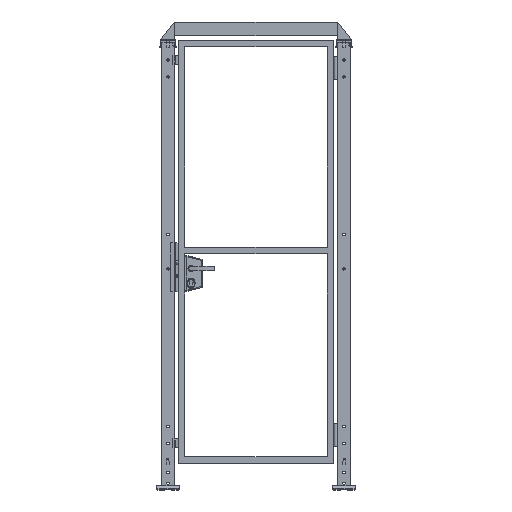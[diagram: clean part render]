
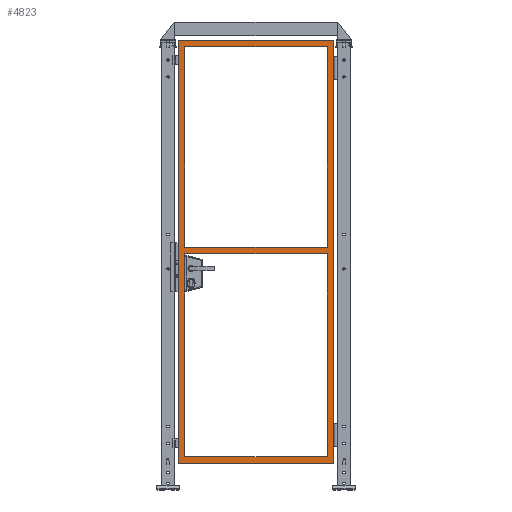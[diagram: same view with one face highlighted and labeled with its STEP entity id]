
A CAD part, top view. The second image highlights one B-rep face of the part: STEP entity #4823.
In plain terms, the highlighted planar face has unit normal (0, 0, 1).
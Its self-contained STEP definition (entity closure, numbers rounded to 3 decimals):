
#4823=ADVANCED_FACE('',(#9878,#9879,#9880),#9881,.F.);
#9878=FACE_BOUND('',#17852,.T.);
#9879=FACE_OUTER_BOUND('',#17853,.T.);
#9880=FACE_BOUND('',#17854,.T.);
#9881=PLANE('',#17855);
#17852=EDGE_LOOP('',(#32088,#32089,#32090,#32091));
#17853=EDGE_LOOP('',(#32092,#32093,#32094,#32095));
#17854=EDGE_LOOP('',(#32096,#32097,#32098,#32099));
#17855=AXIS2_PLACEMENT_3D('',#32100,#32101,#32102);
#32088=ORIENTED_EDGE('',*,*,#37969,.F.);
#32089=ORIENTED_EDGE('',*,*,#37975,.T.);
#32090=ORIENTED_EDGE('',*,*,#37997,.T.);
#32091=ORIENTED_EDGE('',*,*,#38002,.F.);
#32092=ORIENTED_EDGE('',*,*,#38013,.F.);
#32093=ORIENTED_EDGE('',*,*,#38007,.F.);
#32094=ORIENTED_EDGE('',*,*,#37977,.F.);
#32095=ORIENTED_EDGE('',*,*,#38011,.F.);
#32096=ORIENTED_EDGE('',*,*,#37999,.F.);
#32097=ORIENTED_EDGE('',*,*,#37994,.F.);
#32098=ORIENTED_EDGE('',*,*,#38005,.T.);
#32099=ORIENTED_EDGE('',*,*,#38014,.T.);
#32100=CARTESIAN_POINT('',(365.0,135.0,15.0));
#32101=DIRECTION('',(0.,0.0,-1.0));
#32102=DIRECTION('',(-1.0,0.0,0.));
#37969=EDGE_CURVE('',#46828,#46831,#46832,.T.);
#37975=EDGE_CURVE('',#46828,#46839,#46841,.T.);
#37977=EDGE_CURVE('',#46843,#46844,#46845,.T.);
#37994=EDGE_CURVE('',#46871,#46869,#46873,.T.);
#37997=EDGE_CURVE('',#46839,#46875,#46877,.T.);
#37999=EDGE_CURVE('',#46869,#46879,#46880,.T.);
#38002=EDGE_CURVE('',#46831,#46875,#46883,.T.);
#38005=EDGE_CURVE('',#46871,#46885,#46887,.T.);
#38007=EDGE_CURVE('',#46844,#46889,#46890,.T.);
#38011=EDGE_CURVE('',#46893,#46843,#46895,.T.);
#38013=EDGE_CURVE('',#46889,#46893,#46897,.T.);
#38014=EDGE_CURVE('',#46885,#46879,#46898,.T.);
#46828=VERTEX_POINT('',#60680);
#46831=VERTEX_POINT('',#60684);
#46832=LINE('',#60685,#60686);
#46839=VERTEX_POINT('',#60696);
#46841=LINE('',#60699,#60700);
#46843=VERTEX_POINT('',#60702);
#46844=VERTEX_POINT('',#60703);
#46845=LINE('',#60704,#60705);
#46869=VERTEX_POINT('',#60741);
#46871=VERTEX_POINT('',#60744);
#46873=LINE('',#60747,#60748);
#46875=VERTEX_POINT('',#60750);
#46877=LINE('',#60753,#60754);
#46879=VERTEX_POINT('',#60756);
#46880=LINE('',#60757,#60758);
#46883=LINE('',#60762,#60763);
#46885=VERTEX_POINT('',#60765);
#46887=LINE('',#60768,#60769);
#46889=VERTEX_POINT('',#60771);
#46890=LINE('',#60772,#60773);
#46893=VERTEX_POINT('',#60777);
#46895=LINE('',#60780,#60781);
#46897=LINE('',#60783,#60784);
#46898=LINE('',#60785,#60786);
#60680=CARTESIAN_POINT('',(685.0,1990.0,15.0));
#60684=CARTESIAN_POINT('',(45.,1990.0,15.0));
#60685=CARTESIAN_POINT('',(365.0,1990.0,15.0));
#60686=VECTOR('',#67067,1.0);
#60696=CARTESIAN_POINT('',(685.0,1090.0,15.0));
#60699=CARTESIAN_POINT('',(685.0,1070.0,15.0));
#60700=VECTOR('',#67072,1.0);
#60702=CARTESIAN_POINT('',(15.0,120.0,15.0));
#60703=CARTESIAN_POINT('',(15.,2020.0,15.0));
#60704=CARTESIAN_POINT('',(15.0,135.0,15.0));
#60705=VECTOR('',#67073,1.0);
#60741=CARTESIAN_POINT('',(45.,1060.0,15.0));
#60744=CARTESIAN_POINT('',(685.0,1060.0,15.0));
#60747=CARTESIAN_POINT('',(365.0,1060.0,15.0));
#60748=VECTOR('',#67088,1.0);
#60750=CARTESIAN_POINT('',(45.,1090.0,15.0));
#60753=CARTESIAN_POINT('',(365.0,1090.0,15.0));
#60754=VECTOR('',#67090,1.0);
#60756=CARTESIAN_POINT('',(45.0,150.0,15.0));
#60757=CARTESIAN_POINT('',(45.,1070.0,15.0));
#60758=VECTOR('',#67091,1.0);
#60762=CARTESIAN_POINT('',(45.,1070.0,15.0));
#60763=VECTOR('',#67093,1.0);
#60765=CARTESIAN_POINT('',(685.0,150.0,15.0));
#60768=CARTESIAN_POINT('',(685.0,1070.0,15.0));
#60769=VECTOR('',#67095,1.0);
#60771=CARTESIAN_POINT('',(715.0,2020.0,15.0));
#60772=CARTESIAN_POINT('',(30.,2020.0,15.0));
#60773=VECTOR('',#67096,1.0);
#60777=CARTESIAN_POINT('',(715.0,120.0,15.0));
#60780=CARTESIAN_POINT('',(365.0,120.0,15.0));
#60781=VECTOR('',#67099,1.0);
#60783=CARTESIAN_POINT('',(715.0,1070.0,15.0));
#60784=VECTOR('',#67100,1.0);
#60785=CARTESIAN_POINT('',(365.0,150.0,15.0));
#60786=VECTOR('',#67101,1.0);
#67067=DIRECTION('',(-1.0,0.0,0.));
#67072=DIRECTION('',(0.,-1.0,0.));
#67073=DIRECTION('',(0.0,1.0,0.0));
#67088=DIRECTION('',(-1.0,0.0,0.));
#67090=DIRECTION('',(-1.0,0.0,0.));
#67091=DIRECTION('',(0.,-1.0,0.));
#67093=DIRECTION('',(0.,-1.0,0.));
#67095=DIRECTION('',(0.,-1.0,0.));
#67096=DIRECTION('',(1.0,0.,0.));
#67099=DIRECTION('',(-1.0,0.0,0.));
#67100=DIRECTION('',(0.,-1.0,0.));
#67101=DIRECTION('',(-1.0,0.0,0.));
